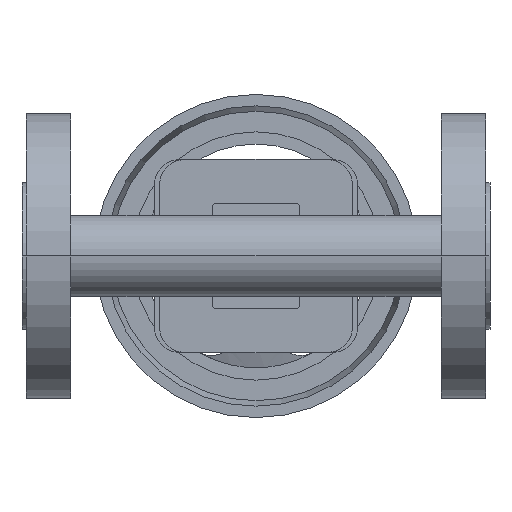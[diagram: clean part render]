
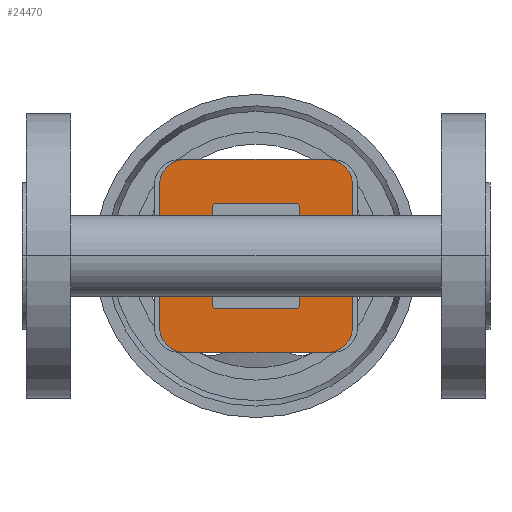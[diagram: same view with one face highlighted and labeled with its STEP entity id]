
A CAD part, front view. The second image highlights one B-rep face of the part: STEP entity #24470.
In plain terms, the highlighted planar face has unit normal (0, -1, 0).
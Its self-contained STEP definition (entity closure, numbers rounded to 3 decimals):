
#1070=CARTESIAN_POINT('',(136.533,39.,18.284));
#1080=VERTEX_POINT('',#1070);
#1110=CARTESIAN_POINT('',(129.977,39.,0.));
#1120=DIRECTION('',(0.,-1.,-0.));
#1130=DIRECTION('',(1.,0.,0.));
#1140=AXIS2_PLACEMENT_3D('',#1110,#1120,#1130);
#1150=ELLIPSE('',#1140,24.111,19.);
#1160=CARTESIAN_POINT('',(136.533,39.,-18.284));
#1170=VERTEX_POINT('',#1160);
#1180=EDGE_CURVE('',#1170,#1080,#1150,.T.);
#8960=CARTESIAN_POINT('',(149.5,39.,47.5));
#8970=VERTEX_POINT('',#8960);
#9130=CARTESIAN_POINT('',(162.5,39.,34.5));
#9140=VERTEX_POINT('',#9130);
#9170=CARTESIAN_POINT('',(149.5,39.,34.5));
#9180=DIRECTION('',(0.,1.,0.));
#9190=DIRECTION('',(0.,0.,1.));
#9200=AXIS2_PLACEMENT_3D('',#9170,#9180,#9190);
#9210=CIRCLE('',#9200,13.);
#9220=EDGE_CURVE('',#8970,#9140,#9210,.T.);
#9550=CARTESIAN_POINT('',(72.,39.,6.));
#9560=VERTEX_POINT('',#9550);
#9590=CARTESIAN_POINT('',(115.,39.,6.));
#9600=DIRECTION('',(1.,0.,0.));
#9610=VECTOR('',#9600,1.);
#9620=LINE('',#9590,#9610);
#9630=CARTESIAN_POINT('',(87.65,39.,6.));
#9640=VERTEX_POINT('',#9630);
#9650=EDGE_CURVE('',#9560,#9640,#9620,.T.);
#9940=CARTESIAN_POINT('',(162.5,39.,-34.5));
#9950=VERTEX_POINT('',#9940);
#9980=CARTESIAN_POINT('',(162.5,39.,34.5));
#9990=DIRECTION('',(0.,0.,-1.));
#10000=VECTOR('',#9990,1.);
#10010=LINE('',#9980,#10000);
#10020=EDGE_CURVE('',#9140,#9950,#10010,.T.);
#10180=CARTESIAN_POINT('',(149.5,39.,-47.5));
#10190=VERTEX_POINT('',#10180);
#10340=CARTESIAN_POINT('',(80.5,39.,-47.5));
#10350=VERTEX_POINT('',#10340);
#10380=CARTESIAN_POINT('',(149.5,39.,-47.5));
#10390=DIRECTION('',(-1.,0.,0.));
#10400=VECTOR('',#10390,1.);
#10410=LINE('',#10380,#10400);
#10420=EDGE_CURVE('',#10190,#10350,#10410,.T.);
#10580=CARTESIAN_POINT('',(67.5,39.,34.5));
#10590=VERTEX_POINT('',#10580);
#10750=CARTESIAN_POINT('',(80.5,39.,47.5));
#10760=VERTEX_POINT('',#10750);
#10790=CARTESIAN_POINT('',(80.5,39.,34.5));
#10800=DIRECTION('',(0.,1.,0.));
#10810=DIRECTION('',(-1.,0.,0.));
#10820=AXIS2_PLACEMENT_3D('',#10790,#10800,#10810);
#10830=CIRCLE('',#10820,13.);
#10840=EDGE_CURVE('',#10590,#10760,#10830,.T.);
#11190=CARTESIAN_POINT('',(67.5,39.,-34.5));
#11200=VERTEX_POINT('',#11190);
#11230=CARTESIAN_POINT('',(80.5,39.,-34.5));
#11240=DIRECTION('',(0.,1.,0.));
#11250=DIRECTION('',(0.,0.,-1.));
#11260=AXIS2_PLACEMENT_3D('',#11230,#11240,#11250);
#11270=CIRCLE('',#11260,13.);
#11280=EDGE_CURVE('',#10350,#11200,#11270,.T.);
#11470=CARTESIAN_POINT('',(149.5,39.,-34.5));
#11480=DIRECTION('',(-0.,1.,0.));
#11490=DIRECTION('',(1.,0.,0.));
#11500=AXIS2_PLACEMENT_3D('',#11470,#11480,#11490);
#11510=CIRCLE('',#11500,13.);
#11520=EDGE_CURVE('',#9950,#10190,#11510,.T.);
#14240=CARTESIAN_POINT('',(134.5,39.,26.));
#14250=VERTEX_POINT('',#14240);
#14400=CARTESIAN_POINT('',(95.5,39.,26.));
#14410=VERTEX_POINT('',#14400);
#14440=CARTESIAN_POINT('',(124.75,39.,26.));
#14450=DIRECTION('',(1.,0.,0.));
#14460=VECTOR('',#14450,1.);
#14470=LINE('',#14440,#14460);
#14480=EDGE_CURVE('',#14410,#14250,#14470,.T.);
#15340=CARTESIAN_POINT('',(138.5,39.,-18.648));
#15350=DIRECTION('',(-0.,-1.,0.));
#15360=DIRECTION('',(-0.783,0.,0.622));
#15370=AXIS2_PLACEMENT_3D('',#15340,#15350,#15360);
#15380=CIRCLE('',#15370,2.);
#15390=CARTESIAN_POINT('',(136.5,39.,-18.648));
#15400=VERTEX_POINT('',#15390);
#15410=EDGE_CURVE('',#1170,#15400,#15380,.T.);
#15580=CARTESIAN_POINT('',(115.,39.,0.));
#15590=DIRECTION('',(0.,1.,0.));
#15600=DIRECTION('',(-0.783,0.,-0.622));
#15610=AXIS2_PLACEMENT_3D('',#15580,#15590,#15600);
#15620=CIRCLE('',#15610,28.);
#15630=CARTESIAN_POINT('',(93.067,39.,17.405));
#15640=VERTEX_POINT('',#15630);
#15650=EDGE_CURVE('',#9640,#15640,#15620,.T.);
#16050=CARTESIAN_POINT('',(136.5,39.,18.648));
#16060=VERTEX_POINT('',#16050);
#16090=CARTESIAN_POINT('',(138.5,39.,18.648));
#16100=DIRECTION('',(0.,-1.,-0.));
#16110=DIRECTION('',(-1.,0.,0.));
#16120=AXIS2_PLACEMENT_3D('',#16090,#16100,#16110);
#16130=CIRCLE('',#16120,2.);
#16140=EDGE_CURVE('',#16060,#1080,#16130,.T.);
#16260=CARTESIAN_POINT('',(91.5,39.,18.648));
#16270=DIRECTION('',(0.,-1.,-0.));
#16280=DIRECTION('',(0.783,0.,-0.622));
#16290=AXIS2_PLACEMENT_3D('',#16260,#16270,#16280);
#16300=CIRCLE('',#16290,2.);
#16310=CARTESIAN_POINT('',(93.5,39.,18.648));
#16320=VERTEX_POINT('',#16310);
#16330=EDGE_CURVE('',#15640,#16320,#16300,.T.);
#17150=CARTESIAN_POINT('',(93.5,39.,-18.648));
#17160=VERTEX_POINT('',#17150);
#17190=CARTESIAN_POINT('',(91.5,39.,-18.648));
#17200=DIRECTION('',(0.,-1.,-0.));
#17210=DIRECTION('',(1.,0.,0.));
#17220=AXIS2_PLACEMENT_3D('',#17190,#17200,#17210);
#17230=CIRCLE('',#17220,2.);
#17240=CARTESIAN_POINT('',(93.067,39.,-17.405));
#17250=VERTEX_POINT('',#17240);
#17260=EDGE_CURVE('',#17160,#17250,#17230,.T.);
#17490=CARTESIAN_POINT('',(93.5,39.,-24.));
#17500=VERTEX_POINT('',#17490);
#17660=CARTESIAN_POINT('',(95.5,39.,-26.));
#17670=VERTEX_POINT('',#17660);
#17700=CARTESIAN_POINT('',(95.5,39.,-24.));
#17710=DIRECTION('',(0.,1.,0.));
#17720=DIRECTION('',(0.,0.,-1.));
#17730=AXIS2_PLACEMENT_3D('',#17700,#17710,#17720);
#17740=CIRCLE('',#17730,2.);
#17750=EDGE_CURVE('',#17670,#17500,#17740,.T.);
#17980=CARTESIAN_POINT('',(134.5,39.,-26.));
#17990=VERTEX_POINT('',#17980);
#18020=CARTESIAN_POINT('',(105.25,39.,-26.));
#18030=DIRECTION('',(-1.,0.,0.));
#18040=VECTOR('',#18030,1.);
#18050=LINE('',#18020,#18040);
#18060=EDGE_CURVE('',#17990,#17670,#18050,.T.);
#18300=CARTESIAN_POINT('',(136.5,39.,-24.));
#18310=VERTEX_POINT('',#18300);
#18340=CARTESIAN_POINT('',(134.5,39.,-24.));
#18350=DIRECTION('',(-0.,1.,0.));
#18360=DIRECTION('',(1.,0.,0.));
#18370=AXIS2_PLACEMENT_3D('',#18340,#18350,#18360);
#18380=CIRCLE('',#18370,2.);
#18390=EDGE_CURVE('',#18310,#17990,#18380,.T.);
#18570=CARTESIAN_POINT('',(136.5,39.,-12.));
#18580=DIRECTION('',(0.,0.,-1.));
#18590=VECTOR('',#18580,1.);
#18600=LINE('',#18570,#18590);
#18610=EDGE_CURVE('',#15400,#18310,#18600,.T.);
#18990=CARTESIAN_POINT('',(136.5,39.,24.));
#19000=VERTEX_POINT('',#18990);
#19030=CARTESIAN_POINT('',(136.5,39.,9.324));
#19040=DIRECTION('',(0.,0.,-1.));
#19050=VECTOR('',#19040,1.);
#19060=LINE('',#19030,#19050);
#19070=EDGE_CURVE('',#19000,#16060,#19060,.T.);
#19220=CARTESIAN_POINT('',(134.5,39.,24.));
#19230=DIRECTION('',(0.,1.,0.));
#19240=DIRECTION('',(0.,0.,1.));
#19250=AXIS2_PLACEMENT_3D('',#19220,#19230,#19240);
#19260=CIRCLE('',#19250,2.);
#19270=EDGE_CURVE('',#14250,#19000,#19260,.T.);
#19740=CARTESIAN_POINT('',(93.5,39.,24.));
#19750=VERTEX_POINT('',#19740);
#19780=CARTESIAN_POINT('',(95.5,39.,24.));
#19790=DIRECTION('',(0.,1.,0.));
#19800=DIRECTION('',(-1.,0.,0.));
#19810=AXIS2_PLACEMENT_3D('',#19780,#19790,#19800);
#19820=CIRCLE('',#19810,2.);
#19830=EDGE_CURVE('',#19750,#14410,#19820,.T.);
#19950=CARTESIAN_POINT('',(115.,39.,0.));
#19960=DIRECTION('',(0.,1.,0.));
#19970=DIRECTION('',(-0.783,0.,-0.622));
#19980=AXIS2_PLACEMENT_3D('',#19950,#19960,#19970);
#19990=CIRCLE('',#19980,28.);
#20000=CARTESIAN_POINT('',(87.65,39.,-6.));
#20010=VERTEX_POINT('',#20000);
#20020=EDGE_CURVE('',#17250,#20010,#19990,.T.);
#20400=CARTESIAN_POINT('',(93.5,39.,9.5));
#20410=DIRECTION('',(0.,-0.,1.));
#20420=VECTOR('',#20410,1.);
#20430=LINE('',#20400,#20420);
#20440=EDGE_CURVE('',#17500,#17160,#20430,.T.);
#20820=CARTESIAN_POINT('',(93.5,39.,9.5));
#20830=DIRECTION('',(0.,-0.,1.));
#20840=VECTOR('',#20830,1.);
#20850=LINE('',#20820,#20840);
#20860=EDGE_CURVE('',#16320,#19750,#20850,.T.);
#22040=CARTESIAN_POINT('',(67.5,39.,-34.5));
#22050=DIRECTION('',(0.,0.,1.));
#22060=VECTOR('',#22050,1.);
#22070=LINE('',#22040,#22060);
#22080=EDGE_CURVE('',#11200,#10590,#22070,.T.);
#22640=CARTESIAN_POINT('',(115.,39.,-6.));
#22650=DIRECTION('',(-1.,0.,0.));
#22660=VECTOR('',#22650,1.);
#22670=LINE('',#22640,#22660);
#22680=CARTESIAN_POINT('',(72.,39.,-6.));
#22690=VERTEX_POINT('',#22680);
#22700=EDGE_CURVE('',#20010,#22690,#22670,.T.);
#23740=CARTESIAN_POINT('',(80.5,39.,47.5));
#23750=DIRECTION('',(1.,0.,0.));
#23760=VECTOR('',#23750,1.);
#23770=LINE('',#23740,#23760);
#23780=EDGE_CURVE('',#10760,#8970,#23770,.T.);
#24050=CARTESIAN_POINT('',(115.,39.,0.));
#24060=DIRECTION('',(0.,1.,0.));
#24070=DIRECTION('',(0.,0.,1.));
#24080=AXIS2_PLACEMENT_3D('',#24050,#24060,#24070);
#24090=PLANE('',#24080);
#24100=ORIENTED_EDGE('',*,*,#17260,.T.);
#24110=ORIENTED_EDGE('',*,*,#20440,.T.);
#24120=ORIENTED_EDGE('',*,*,#17750,.T.);
#24130=ORIENTED_EDGE('',*,*,#18060,.T.);
#24140=ORIENTED_EDGE('',*,*,#18390,.T.);
#24150=ORIENTED_EDGE('',*,*,#18610,.T.);
#24160=ORIENTED_EDGE('',*,*,#15410,.T.);
#24170=ORIENTED_EDGE('',*,*,#1180,.F.);
#24180=ORIENTED_EDGE('',*,*,#16140,.T.);
#24190=ORIENTED_EDGE('',*,*,#19070,.T.);
#24200=ORIENTED_EDGE('',*,*,#19270,.T.);
#24210=ORIENTED_EDGE('',*,*,#14480,.T.);
#24220=ORIENTED_EDGE('',*,*,#19830,.T.);
#24230=ORIENTED_EDGE('',*,*,#20860,.T.);
#24240=ORIENTED_EDGE('',*,*,#16330,.T.);
#24250=ORIENTED_EDGE('',*,*,#15650,.T.);
#24260=ORIENTED_EDGE('',*,*,#9650,.T.);
#24270=CARTESIAN_POINT('',(72.,39.,3.));
#24280=DIRECTION('',(0.,0.,1.));
#24290=VECTOR('',#24280,1.);
#24300=LINE('',#24270,#24290);
#24310=EDGE_CURVE('',#22690,#9560,#24300,.T.);
#24320=ORIENTED_EDGE('',*,*,#24310,.T.);
#24330=ORIENTED_EDGE('',*,*,#22700,.T.);
#24340=ORIENTED_EDGE('',*,*,#20020,.T.);
#24350=EDGE_LOOP('',(#24340,#24330,#24320,#24260,#24250,#24240,#24230,
#24220,#24210,#24200,#24190,#24180,#24170,#24160,#24150,#24140,#24130,
#24120,#24110,#24100));
#24360=FACE_BOUND('',#24350,.T.);
#24370=ORIENTED_EDGE('',*,*,#23780,.F.);
#24380=ORIENTED_EDGE('',*,*,#9220,.F.);
#24390=ORIENTED_EDGE('',*,*,#10020,.F.);
#24400=ORIENTED_EDGE('',*,*,#11520,.F.);
#24410=ORIENTED_EDGE('',*,*,#10420,.F.);
#24420=ORIENTED_EDGE('',*,*,#11280,.F.);
#24430=ORIENTED_EDGE('',*,*,#22080,.F.);
#24440=ORIENTED_EDGE('',*,*,#10840,.F.);
#24450=EDGE_LOOP('',(#24440,#24430,#24420,#24410,#24400,#24390,#24380,
#24370));
#24460=FACE_OUTER_BOUND('',#24450,.T.);
#24470=ADVANCED_FACE('',(#24360,#24460),#24090,.F.);
